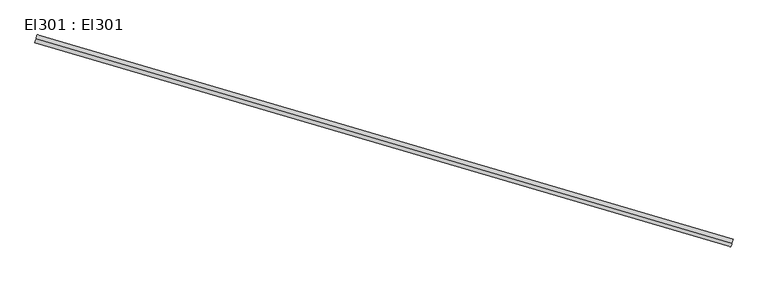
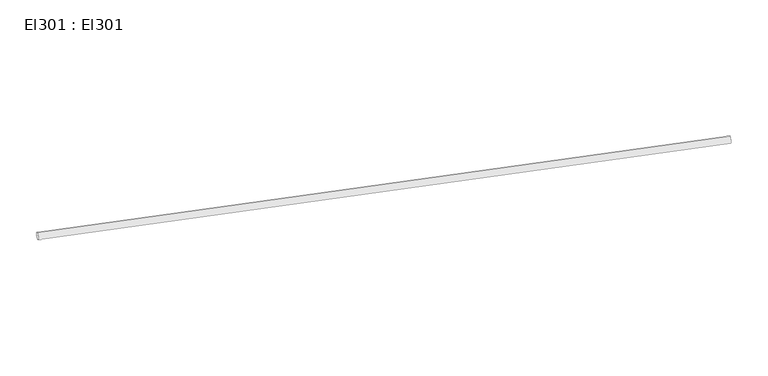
"""IFC4 building model written with IfcOpenShell, lengths in millimetres: cable carrier segment geometry, El301 : El301."""

from ifc_helpers import new_model, si_unit, point, frame, frame_2d, origin, place, context, project, spatial, circle_curve, trimmed, segment, composite_curve, outline, extrude, source, transform, mapped, element, save


def el301_el301_ece8a6d8(model_context):
    return source(origin(), model_context, "Body", "SweptSolid", [
        extrude(outline(composite_curve([segment(trimmed(circle_curve(frame_2d((0.0, -9.5)), 9.5), [point((0.0, -19.0))], [point((0.0, 0.0))], False, "CARTESIAN"), True, "CONTINUOUS"), segment(trimmed(circle_curve(frame_2d((0.0, -9.5)), 9.5), [point((0.0, 0.0))], [point((0.0, -19.0))], False, "CARTESIAN"), True, "CONTINUOUS")], self_intersect=False)), frame((23880.2482797, 14279.3149184, 2959.5), z_axis=(-0.9595216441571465, 0.28163489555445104, 0.0), x_axis=(-0.28163489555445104, -0.9595216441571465, 0.0)), (0.0, 0.0, 1.0), 1729.09),
    ])


if __name__ == "__main__":
    model = new_model("IFC4")
    model_context = context("Model", 3, world=origin())
    ifc_project = project(units=[si_unit("LENGTHUNIT", "METRE", prefix="MILLI")], contexts=[model_context])
    site = spatial("IfcSite", under=ifc_project)
    building = spatial("IfcBuilding", under=site)
    placement = place(None, origin())
    el301_el301_shape = el301_el301_ece8a6d8(model_context)
    element("IfcCableCarrierSegment", 1, ObjectType="El301 : El301", at=placement, inside=building, context=model_context, shape_type="MappedRepresentation", body=[
        mapped(el301_el301_shape, transform((0.0, 0.0, 0.0), x_axis=(1.0, 0.0, 0.0), y_axis=(0.0, 1.0, 0.0), z_axis=(0.0, 0.0, 1.0))),
    ])
    save(model, "model.ifc")
